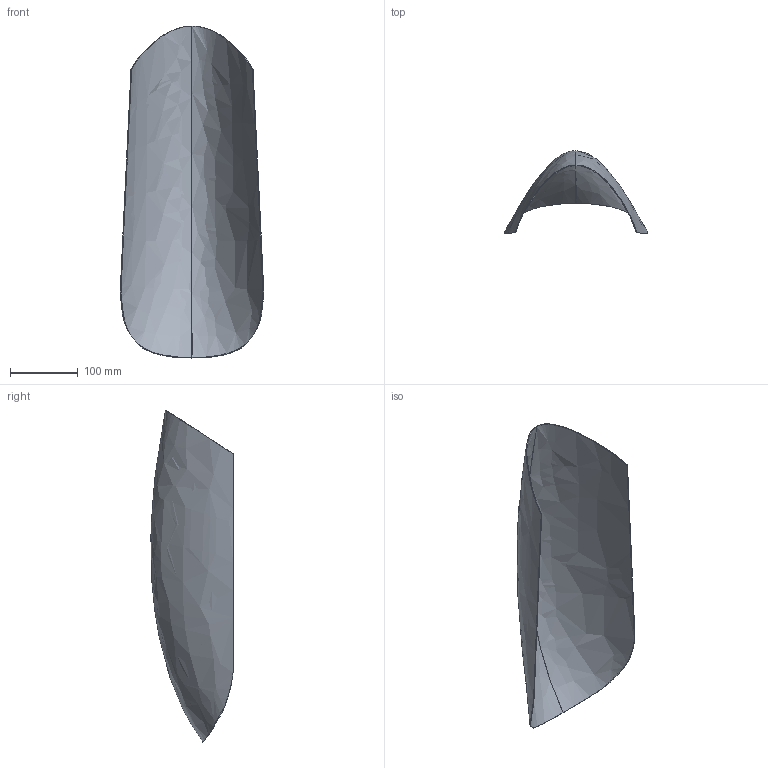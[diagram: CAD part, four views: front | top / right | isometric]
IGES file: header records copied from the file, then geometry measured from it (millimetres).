
Start section: SolidWorks IGES file using analytic representation for surfaces
Global section: file name: E:\Users\Åâãåíèé\Desktop\Ñàìîë¸òû\MXAircraft\MX-2\äëÿ ñòàíêà Vr-2\DXF\MX-2\ôîíàðü.IGS; native system: SolidWorks 2010; preprocessor: SolidWorks 2010; author: Åâãåíèé; date: 140114.230631; units: millimetre
Bounding box: 211.38 x 121.45 x 489.89 mm (x, y, z)
Surface area: 276287.2 mm2 (no closed solid volume)
Topology: 0 solids, 0 shells, 13 faces, 227 edges, 227 vertices
Faces by surface type: bspline 13
